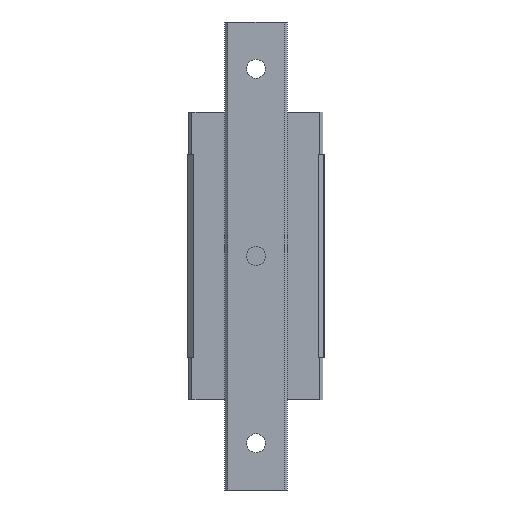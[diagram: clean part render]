
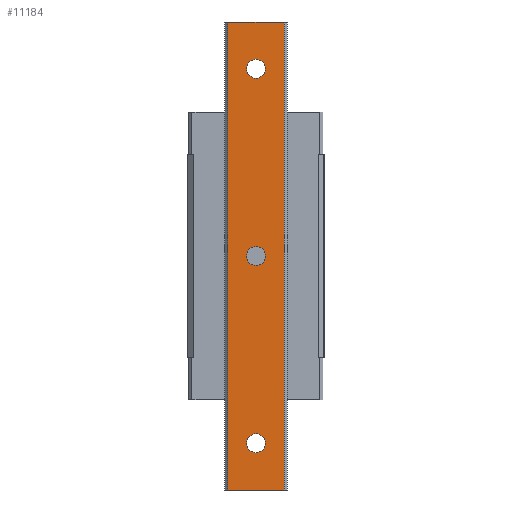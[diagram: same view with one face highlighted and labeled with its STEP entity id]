
A CAD part, front view. The second image highlights one B-rep face of the part: STEP entity #11184.
In plain terms, the highlighted planar face has unit normal (0, -1, 0).
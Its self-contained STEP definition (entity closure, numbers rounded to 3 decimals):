
#207 = ORIENTED_EDGE ( 'NONE', *, *, #360, .T. ) ;
#360 = EDGE_CURVE ( 'NONE', #2976, #9727, #3627, .T. ) ;
#415 = CARTESIAN_POINT ( 'NONE',  ( 0., -17.5, -60. ) ) ;
#504 = FACE_OUTER_BOUND ( 'NONE', #2508, .T. ) ;
#969 = CARTESIAN_POINT ( 'NONE',  ( 0., -17.5, 3. ) ) ;
#994 = CIRCLE ( 'NONE', #4132, 3. ) ;
#1283 = CARTESIAN_POINT ( 'NONE',  ( -9., -17.5, -75. ) ) ;
#1608 = EDGE_CURVE ( 'NONE', #7442, #8841, #3541, .T. ) ;
#1996 = AXIS2_PLACEMENT_3D ( 'NONE', #415, #8927, #4563 ) ;
#2328 = DIRECTION ( 'NONE',  ( 0., 0., -1. ) ) ;
#2350 = CARTESIAN_POINT ( 'NONE',  ( 0., -17.5, 0. ) ) ;
#2508 = EDGE_LOOP ( 'NONE', ( #9939, #3779, #5659, #10978 ) ) ;
#2664 = EDGE_CURVE ( 'NONE', #2707, #7794, #9416, .T. ) ;
#2707 = VERTEX_POINT ( 'NONE', #9063 ) ;
#2713 = CARTESIAN_POINT ( 'NONE',  ( -9., -17.5, -75. ) ) ;
#2740 = DIRECTION ( 'NONE',  ( 0., -1., 0. ) ) ;
#2802 = FACE_BOUND ( 'NONE', #7963, .T. ) ;
#2844 = EDGE_CURVE ( 'NONE', #8539, #10408, #3121, .T. ) ;
#2956 = AXIS2_PLACEMENT_3D ( 'NONE', #8332, #2981, #11573 ) ;
#2976 = VERTEX_POINT ( 'NONE', #5164 ) ;
#2981 = DIRECTION ( 'NONE',  ( 0., 1., 0. ) ) ;
#2987 = DIRECTION ( 'NONE',  ( 0., 1., 0. ) ) ;
#3046 = CARTESIAN_POINT ( 'NONE',  ( 9., -17.5, -75. ) ) ;
#3121 = LINE ( 'NONE', #12171, #3797 ) ;
#3491 = AXIS2_PLACEMENT_3D ( 'NONE', #11388, #2740, #5066 ) ;
#3541 = CIRCLE ( 'NONE', #8712, 3. ) ;
#3545 = CARTESIAN_POINT ( 'NONE',  ( 0., -17.5, 60. ) ) ;
#3627 = CIRCLE ( 'NONE', #5426, 3. ) ;
#3779 = ORIENTED_EDGE ( 'NONE', *, *, #2844, .T. ) ;
#3797 = VECTOR ( 'NONE', #10866, 1000. ) ;
#3832 = VECTOR ( 'NONE', #7359, 1000. ) ;
#4123 = CARTESIAN_POINT ( 'NONE',  ( 0., -17.5, -60. ) ) ;
#4132 = AXIS2_PLACEMENT_3D ( 'NONE', #4123, #9699, #8407 ) ;
#4261 = DIRECTION ( 'NONE',  ( 0., 0., 1. ) ) ;
#4411 = EDGE_LOOP ( 'NONE', ( #12432, #207 ) ) ;
#4563 = DIRECTION ( 'NONE',  ( 0., 0., 1. ) ) ;
#4803 = PLANE ( 'NONE',  #3491 ) ;
#4811 = EDGE_CURVE ( 'NONE', #8841, #7442, #6672, .T. ) ;
#5033 = CARTESIAN_POINT ( 'NONE',  ( 9., -17.5, -75. ) ) ;
#5066 = DIRECTION ( 'NONE',  ( 0., 0., -1. ) ) ;
#5164 = CARTESIAN_POINT ( 'NONE',  ( 0., -17.5, 57. ) ) ;
#5170 = LINE ( 'NONE', #5033, #3832 ) ;
#5337 = CARTESIAN_POINT ( 'NONE',  ( 0., -17.5, 0. ) ) ;
#5426 = AXIS2_PLACEMENT_3D ( 'NONE', #3545, #11929, #12000 ) ;
#5453 = VERTEX_POINT ( 'NONE', #13004 ) ;
#5659 = ORIENTED_EDGE ( 'NONE', *, *, #7690, .T. ) ;
#5732 = LINE ( 'NONE', #1283, #11147 ) ;
#5760 = ORIENTED_EDGE ( 'NONE', *, *, #2664, .T. ) ;
#6264 = ORIENTED_EDGE ( 'NONE', *, *, #1608, .T. ) ;
#6672 = CIRCLE ( 'NONE', #7558, 3. ) ;
#7091 = ORIENTED_EDGE ( 'NONE', *, *, #4811, .T. ) ;
#7359 = DIRECTION ( 'NONE',  ( 0., 0., 1. ) ) ;
#7442 = VERTEX_POINT ( 'NONE', #969 ) ;
#7558 = AXIS2_PLACEMENT_3D ( 'NONE', #2350, #11936, #10783 ) ;
#7690 = EDGE_CURVE ( 'NONE', #10408, #12550, #5170, .T. ) ;
#7712 = VECTOR ( 'NONE', #11820, 1000. ) ;
#7794 = VERTEX_POINT ( 'NONE', #13488 ) ;
#7963 = EDGE_LOOP ( 'NONE', ( #5760, #13609 ) ) ;
#8153 = FACE_BOUND ( 'NONE', #4411, .T. ) ;
#8173 = CARTESIAN_POINT ( 'NONE',  ( 0., -17.5, -3. ) ) ;
#8332 = CARTESIAN_POINT ( 'NONE',  ( 0., -17.5, 60. ) ) ;
#8407 = DIRECTION ( 'NONE',  ( 0., 0., 1. ) ) ;
#8539 = VERTEX_POINT ( 'NONE', #2713 ) ;
#8712 = AXIS2_PLACEMENT_3D ( 'NONE', #5337, #2987, #4261 ) ;
#8719 = CARTESIAN_POINT ( 'NONE',  ( -9., -17.5, 75. ) ) ;
#8841 = VERTEX_POINT ( 'NONE', #8173 ) ;
#8927 = DIRECTION ( 'NONE',  ( 0., 1., 0. ) ) ;
#9049 = CIRCLE ( 'NONE', #2956, 3. ) ;
#9063 = CARTESIAN_POINT ( 'NONE',  ( 0., -17.5, -57. ) ) ;
#9416 = CIRCLE ( 'NONE', #1996, 3. ) ;
#9699 = DIRECTION ( 'NONE',  ( 0., 1., 0. ) ) ;
#9727 = VERTEX_POINT ( 'NONE', #9849 ) ;
#9849 = CARTESIAN_POINT ( 'NONE',  ( 0., -17.5, 63. ) ) ;
#9939 = ORIENTED_EDGE ( 'NONE', *, *, #11061, .T. ) ;
#10408 = VERTEX_POINT ( 'NONE', #3046 ) ;
#10783 = DIRECTION ( 'NONE',  ( 0., 0., 1. ) ) ;
#10866 = DIRECTION ( 'NONE',  ( 1., 0., 0. ) ) ;
#10978 = ORIENTED_EDGE ( 'NONE', *, *, #12779, .T. ) ;
#11061 = EDGE_CURVE ( 'NONE', #5453, #8539, #5732, .T. ) ;
#11147 = VECTOR ( 'NONE', #2328, 1000. ) ;
#11184 = ADVANCED_FACE ( 'NONE', ( #13591, #8153, #2802, #504 ), #4803, .T. ) ;
#11388 = CARTESIAN_POINT ( 'NONE',  ( -9., -17.5, -75. ) ) ;
#11573 = DIRECTION ( 'NONE',  ( 0., 0., 1. ) ) ;
#11820 = DIRECTION ( 'NONE',  ( -1., 0., 0. ) ) ;
#11929 = DIRECTION ( 'NONE',  ( 0., 1., 0. ) ) ;
#11936 = DIRECTION ( 'NONE',  ( 0., 1., 0. ) ) ;
#12000 = DIRECTION ( 'NONE',  ( 0., 0., 1. ) ) ;
#12171 = CARTESIAN_POINT ( 'NONE',  ( -9., -17.5, -75. ) ) ;
#12432 = ORIENTED_EDGE ( 'NONE', *, *, #13022, .T. ) ;
#12550 = VERTEX_POINT ( 'NONE', #12954 ) ;
#12560 = EDGE_CURVE ( 'NONE', #7794, #2707, #994, .T. ) ;
#12779 = EDGE_CURVE ( 'NONE', #12550, #5453, #12957, .T. ) ;
#12954 = CARTESIAN_POINT ( 'NONE',  ( 9., -17.5, 75. ) ) ;
#12957 = LINE ( 'NONE', #8719, #7712 ) ;
#13004 = CARTESIAN_POINT ( 'NONE',  ( -9., -17.5, 75. ) ) ;
#13022 = EDGE_CURVE ( 'NONE', #9727, #2976, #9049, .T. ) ;
#13222 = EDGE_LOOP ( 'NONE', ( #6264, #7091 ) ) ;
#13488 = CARTESIAN_POINT ( 'NONE',  ( 0., -17.5, -63. ) ) ;
#13591 = FACE_BOUND ( 'NONE', #13222, .T. ) ;
#13609 = ORIENTED_EDGE ( 'NONE', *, *, #12560, .T. ) ;
